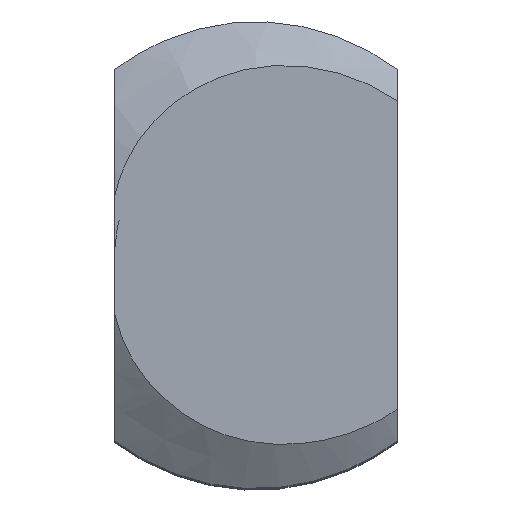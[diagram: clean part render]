
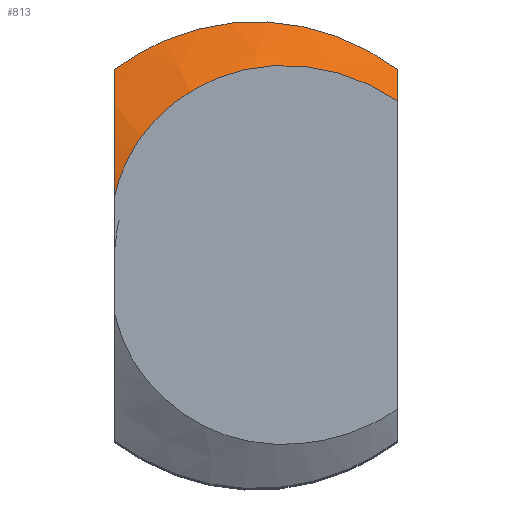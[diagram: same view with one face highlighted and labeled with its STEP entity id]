
A CAD part, top view. The second image highlights one B-rep face of the part: STEP entity #813.
In plain terms, the highlighted free-form (B-spline) face has degree [3, 3] with [4, 7] control points.
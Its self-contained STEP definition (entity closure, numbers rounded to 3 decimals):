
#52=B_SPLINE_SURFACE_WITH_KNOTS('',3,3,((#3447,#3448,#3449,#3450,#3451,
#3452,#3453),(#3454,#3455,#3456,#3457,#3458,#3459,#3460),(#3461,#3462,#3463,
#3464,#3465,#3466,#3467),(#3468,#3469,#3470,#3471,#3472,#3473,#3474)),
 .UNSPECIFIED.,.F.,.F.,.F.,(4,4),(4,1,1,1,4),(0.127,0.277),
(69.146,69.916,70.686,71.456,72.226),
 .UNSPECIFIED.);
#97=FACE_OUTER_BOUND('',#143,.T.);
#143=EDGE_LOOP('',(#745,#746,#747,#748));
#179=B_SPLINE_CURVE_WITH_KNOTS('',3,(#1103,#1104,#1105,#1106,#1107,#1108,
#1109,#1110,#1111,#1112),.UNSPECIFIED.,.F.,.F.,(4,2,2,2,4),(-0.248,
-0.106,-0.07,-0.017,0.),
 .UNSPECIFIED.);
#223=B_SPLINE_CURVE_WITH_KNOTS('',3,(#1528,#1529,#1530,#1531,#1532,#1533),
 .UNSPECIFIED.,.F.,.F.,(4,2,4),(-0.318,-0.096,
0.),.UNSPECIFIED.);
#278=B_SPLINE_CURVE_WITH_KNOTS('',3,(#2767,#2768,#2769,#2770,#2771),
 .UNSPECIFIED.,.F.,.F.,(4,1,4),(70.035,70.686,71.337),
 .UNSPECIFIED.);
#281=B_SPLINE_CURVE_WITH_KNOTS('',3,(#2846,#2847,#2848,#2849,#2850,#2851,
#2852,#2853,#2854,#2855,#2856,#2857,#2858),.UNSPECIFIED.,.F.,.F.,(4,3,3,
3,4),(1.065,1.22,1.376,1.532,
1.687),.UNSPECIFIED.);
#308=VERTEX_POINT('',#1095);
#309=VERTEX_POINT('',#1102);
#355=VERTEX_POINT('',#1507);
#356=VERTEX_POINT('',#1527);
#396=EDGE_CURVE('',#308,#309,#179,.T.);
#443=EDGE_CURVE('',#355,#356,#223,.T.);
#498=EDGE_CURVE('',#308,#356,#278,.T.);
#501=EDGE_CURVE('',#355,#309,#281,.T.);
#745=ORIENTED_EDGE('',*,*,#396,.F.);
#746=ORIENTED_EDGE('',*,*,#498,.T.);
#747=ORIENTED_EDGE('',*,*,#443,.F.);
#748=ORIENTED_EDGE('',*,*,#501,.T.);
#813=ADVANCED_FACE('',(#97),#52,.T.);
#1095=CARTESIAN_POINT('',(2.,2.625,13.72));
#1102=CARTESIAN_POINT('',(2.,0.062,14.257));
#1103=CARTESIAN_POINT('Ctrl Pts',(2.,2.625,13.72));
#1104=CARTESIAN_POINT('Ctrl Pts',(2.,2.076,13.948));
#1105=CARTESIAN_POINT('Ctrl Pts',(2.,1.576,14.118));
#1106=CARTESIAN_POINT('Ctrl Pts',(2.,0.994,14.227));
#1107=CARTESIAN_POINT('Ctrl Pts',(2.,0.879,14.245));
#1108=CARTESIAN_POINT('Ctrl Pts',(2.,0.586,14.274));
#1109=CARTESIAN_POINT('Ctrl Pts',(2.,0.411,14.279));
#1110=CARTESIAN_POINT('Ctrl Pts',(2.,0.177,14.268));
#1111=CARTESIAN_POINT('Ctrl Pts',(2.,0.119,14.263));
#1112=CARTESIAN_POINT('Ctrl Pts',(2.,0.062,14.257));
#1507=CARTESIAN_POINT('',(-2.,0.062,14.993));
#1527=CARTESIAN_POINT('',(-2.,2.625,14.03));
#1528=CARTESIAN_POINT('Ctrl Pts',(-2.,0.062,14.993));
#1529=CARTESIAN_POINT('Ctrl Pts',(-2.,0.541,14.927));
#1530=CARTESIAN_POINT('Ctrl Pts',(-2.,1.059,14.758));
#1531=CARTESIAN_POINT('Ctrl Pts',(-2.,2.034,14.322));
#1532=CARTESIAN_POINT('Ctrl Pts',(-2.,2.339,14.174));
#1533=CARTESIAN_POINT('Ctrl Pts',(-2.,2.625,14.03));
#2767=CARTESIAN_POINT('Ctrl Pts',(2.001,2.625,13.72));
#2768=CARTESIAN_POINT('Ctrl Pts',(1.43,3.057,13.771));
#2769=CARTESIAN_POINT('Ctrl Pts',(0.,3.548,
13.875));
#2770=CARTESIAN_POINT('Ctrl Pts',(-1.43,3.057,13.979));
#2771=CARTESIAN_POINT('Ctrl Pts',(-2.001,2.625,14.03));
#2846=CARTESIAN_POINT('Ctrl Pts',(-2.,0.062,
14.993));
#2847=CARTESIAN_POINT('Ctrl Pts',(-1.984,0.575,14.931));
#2848=CARTESIAN_POINT('Ctrl Pts',(-1.761,1.081,14.87));
#2849=CARTESIAN_POINT('Ctrl Pts',(-1.393,1.437,14.809));
#2850=CARTESIAN_POINT('Ctrl Pts',(-1.026,1.794,14.748));
#2851=CARTESIAN_POINT('Ctrl Pts',(-0.513,2.002,14.686));
#2852=CARTESIAN_POINT('Ctrl Pts',(0.,2.002,
14.625));
#2853=CARTESIAN_POINT('Ctrl Pts',(0.513,2.002,14.564));
#2854=CARTESIAN_POINT('Ctrl Pts',(1.026,1.794,14.502));
#2855=CARTESIAN_POINT('Ctrl Pts',(1.393,1.437,14.441));
#2856=CARTESIAN_POINT('Ctrl Pts',(1.761,1.081,14.38));
#2857=CARTESIAN_POINT('Ctrl Pts',(1.984,0.575,14.319));
#2858=CARTESIAN_POINT('Ctrl Pts',(2.,0.062,14.257));
#3447=CARTESIAN_POINT('Ctrl Pts',(2.,0.062,14.257));
#3448=CARTESIAN_POINT('Ctrl Pts',(1.984,0.575,14.319));
#3449=CARTESIAN_POINT('Ctrl Pts',(1.538,1.586,14.441));
#3450=CARTESIAN_POINT('Ctrl Pts',(0.,2.21,14.625));
#3451=CARTESIAN_POINT('Ctrl Pts',(-1.538,1.586,14.809));
#3452=CARTESIAN_POINT('Ctrl Pts',(-1.984,0.575,14.931));
#3453=CARTESIAN_POINT('Ctrl Pts',(-2.,0.062,14.993));
#3454=CARTESIAN_POINT('Ctrl Pts',(2.433,0.075,14.007));
#3455=CARTESIAN_POINT('Ctrl Pts',(2.413,0.7,14.069));
#3456=CARTESIAN_POINT('Ctrl Pts',(1.871,1.929,14.191));
#3457=CARTESIAN_POINT('Ctrl Pts',(0.,2.689,
14.375));
#3458=CARTESIAN_POINT('Ctrl Pts',(-1.871,1.929,14.559));
#3459=CARTESIAN_POINT('Ctrl Pts',(-2.413,0.7,14.681));
#3460=CARTESIAN_POINT('Ctrl Pts',(-2.433,0.075,
14.743));
#3461=CARTESIAN_POINT('Ctrl Pts',(2.866,0.089,13.757));
#3462=CARTESIAN_POINT('Ctrl Pts',(2.843,0.824,13.819));
#3463=CARTESIAN_POINT('Ctrl Pts',(2.204,2.272,13.941));
#3464=CARTESIAN_POINT('Ctrl Pts',(0.,3.167,
14.125));
#3465=CARTESIAN_POINT('Ctrl Pts',(-2.204,2.272,14.309));
#3466=CARTESIAN_POINT('Ctrl Pts',(-2.843,0.824,14.431));
#3467=CARTESIAN_POINT('Ctrl Pts',(-2.866,0.089,
14.493));
#3468=CARTESIAN_POINT('Ctrl Pts',(3.298,0.102,13.507));
#3469=CARTESIAN_POINT('Ctrl Pts',(3.272,0.949,13.569));
#3470=CARTESIAN_POINT('Ctrl Pts',(2.537,2.615,13.691));
#3471=CARTESIAN_POINT('Ctrl Pts',(0.,3.645,
13.875));
#3472=CARTESIAN_POINT('Ctrl Pts',(-2.537,2.615,14.059));
#3473=CARTESIAN_POINT('Ctrl Pts',(-3.272,0.949,14.181));
#3474=CARTESIAN_POINT('Ctrl Pts',(-3.298,0.102,14.243));
